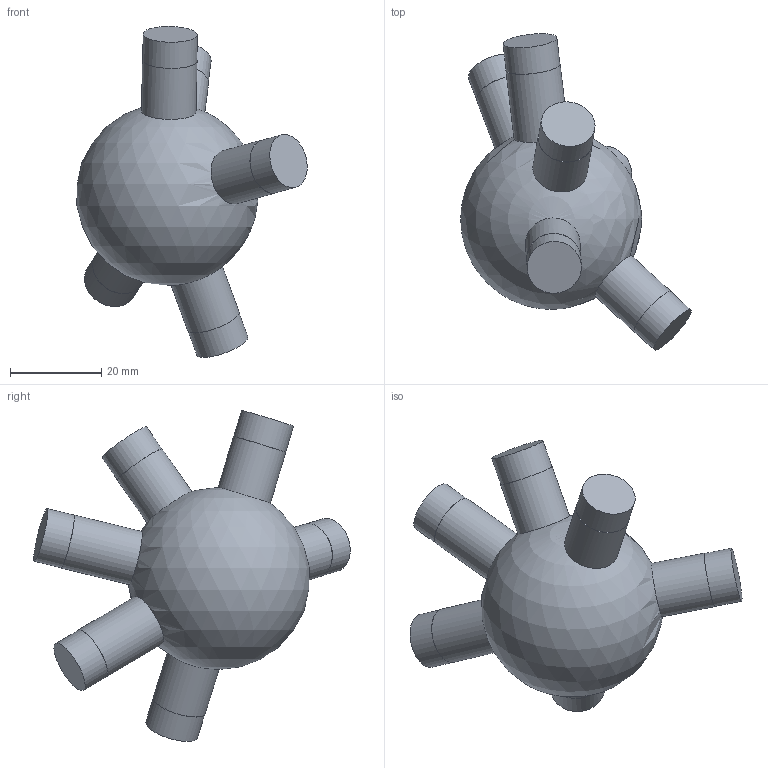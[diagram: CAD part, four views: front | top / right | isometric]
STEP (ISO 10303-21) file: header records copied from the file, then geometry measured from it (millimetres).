
FILE_DESCRIPTION(('Open CASCADE Model'),'2;1');
FILE_NAME('Open CASCADE Shape Model','2026-10-21T12:47:57',('Author'),( 'Open CASCADE'),'Open CASCADE STEP processor 7.9','Open CASCADE 7.9' ,'Unknown');
FILE_SCHEMA(('AUTOMOTIVE_DESIGN { 1 0 10303 214 1 1 1 1 }'));
Length unit declared in the file: millimetre
Products named in the file (1): Open CASCADE STEP translator 7.9 31
Bounding box: 50.63 x 69.55 x 72.75 mm (x, y, z)
Volume: 45959.3 mm3; surface area: 9276.4 mm2
Topology: 1 solids, 1 shells, 25 faces, 42 edges, 28 vertices
Faces by surface type: cylinder 12, plane 12, sphere 1
Full cylindrical faces by diameter (mm): 11.9 x6, 12 x6
Entity records: 1652 total; most frequent: CARTESIAN_POINT 704, DIRECTION 195, ORIENTED_EDGE 82, PCURVE 82, DEFINITIONAL_REPRESENTATION 82, LINE 67, VECTOR 67, AXIS2_PLACEMENT_3D 55
